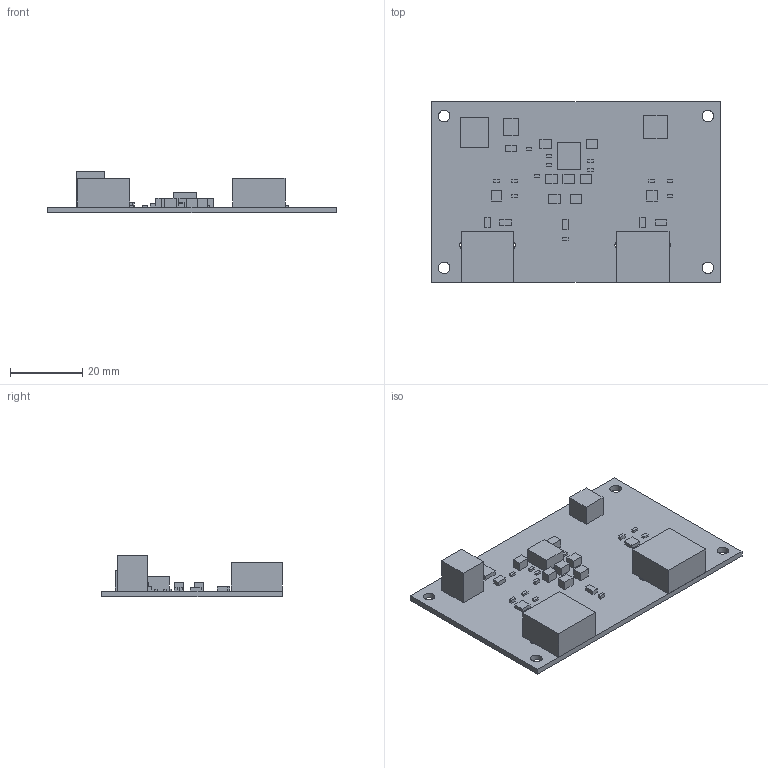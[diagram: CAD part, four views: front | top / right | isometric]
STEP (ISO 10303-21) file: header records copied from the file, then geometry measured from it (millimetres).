
FILE_DESCRIPTION(('Open CASCADE Model'),'2;1');
FILE_NAME('Open CASCADE Shape Model','2026-09-27T12:05:16',('Author'),( 'Open CASCADE'),'Open CASCADE STEP processor 8.0','Open CASCADE 8.0' ,'Unknown');
FILE_SCHEMA(('AUTOMOTIVE_DESIGN { 1 0 10303 214 1 1 1 1 }'));
Length unit declared in the file: millimetre
Products named in the file (36): Open CASCADE STEP translator 8.0 6; Open CASCADE STEP translator 8.0 6.1; Open CASCADE STEP translator 8.0 6.2; Open CASCADE STEP translator 8.0 6.3; Open CASCADE STEP translator 8.0 6.4; Open CASCADE STEP translator 8.0 6.5; Open CASCADE STEP translator 8.0 6.6; Open CASCADE STEP translator 8.0 6.7; Open CASCADE STEP translator 8.0 6.8; Open CASCADE STEP translator 8.0 6.9; Open CASCADE STEP translator 8.0 6.10; Open CASCADE STEP translator 8.0 6.11; Open CASCADE STEP translator 8.0 6.12; Open CASCADE STEP translator 8.0 6.13; Open CASCADE STEP translator 8.0 6.14; Open CASCADE STEP translator 8.0 6.15; Open CASCADE STEP translator 8.0 6.16; Open CASCADE STEP translator 8.0 6.17; Open CASCADE STEP translator 8.0 6.18; Open CASCADE STEP translator 8.0 6.19; Open CASCADE STEP translator 8.0 6.20; Open CASCADE STEP translator 8.0 6.21; Open CASCADE STEP translator 8.0 6.22; Open CASCADE STEP translator 8.0 6.23; Open CASCADE STEP translator 8.0 6.24; Open CASCADE STEP translator 8.0 6.25; Open CASCADE STEP translator 8.0 6.26; Open CASCADE STEP translator 8.0 6.27; Open CASCADE STEP translator 8.0 6.28; Open CASCADE STEP translator 8.0 6.29; Open CASCADE STEP translator 8.0 6.30; Open CASCADE STEP translator 8.0 6.31; Open CASCADE STEP translator 8.0 6.32; Open CASCADE STEP translator 8.0 6.33; Open CASCADE STEP translator 8.0 6.34; Open CASCADE STEP translator 8.0 6.35
Assembly tree (35 placements, depth 2):
  Open CASCADE STEP translator 8.0 6
    Open CASCADE STEP translator 8.0 6.1
    Open CASCADE STEP translator 8.0 6.2
    Open CASCADE STEP translator 8.0 6.3
    Open CASCADE STEP translator 8.0 6.4
    Open CASCADE STEP translator 8.0 6.5
    Open CASCADE STEP translator 8.0 6.6
    Open CASCADE STEP translator 8.0 6.7
    Open CASCADE STEP translator 8.0 6.8
    Open CASCADE STEP translator 8.0 6.9
    Open CASCADE STEP translator 8.0 6.10
    Open CASCADE STEP translator 8.0 6.11
    Open CASCADE STEP translator 8.0 6.12
    Open CASCADE STEP translator 8.0 6.13
    Open CASCADE STEP translator 8.0 6.14
    Open CASCADE STEP translator 8.0 6.15
    Open CASCADE STEP translator 8.0 6.16
    Open CASCADE STEP translator 8.0 6.17
    Open CASCADE STEP translator 8.0 6.18
    Open CASCADE STEP translator 8.0 6.19
    Open CASCADE STEP translator 8.0 6.20
    Open CASCADE STEP translator 8.0 6.21
    Open CASCADE STEP translator 8.0 6.22
    Open CASCADE STEP translator 8.0 6.23
    Open CASCADE STEP translator 8.0 6.24
    Open CASCADE STEP translator 8.0 6.25
    Open CASCADE STEP translator 8.0 6.26
    Open CASCADE STEP translator 8.0 6.27
    Open CASCADE STEP translator 8.0 6.28
    Open CASCADE STEP translator 8.0 6.29
    Open CASCADE STEP translator 8.0 6.30
    Open CASCADE STEP translator 8.0 6.31
    Open CASCADE STEP translator 8.0 6.32
    Open CASCADE STEP translator 8.0 6.33
    Open CASCADE STEP translator 8.0 6.34
    Open CASCADE STEP translator 8.0 6.35
Bounding box: 80 x 50.01 x 11.6 mm (x, y, z)
Volume: 10930.4 mm3; surface area: 11743.6 mm2
Topology: 35 solids, 35 shells, 228 faces, 474 edges, 316 vertices
Faces by surface type: plane 204, bspline 24
Entity records: 13192 total; most frequent: CARTESIAN_POINT 3028, DIRECTION 1704, LINE 1224, VECTOR 1224, ORIENTED_EDGE 948, PCURVE 948, DEFINITIONAL_REPRESENTATION 948, EDGE_CURVE 474
